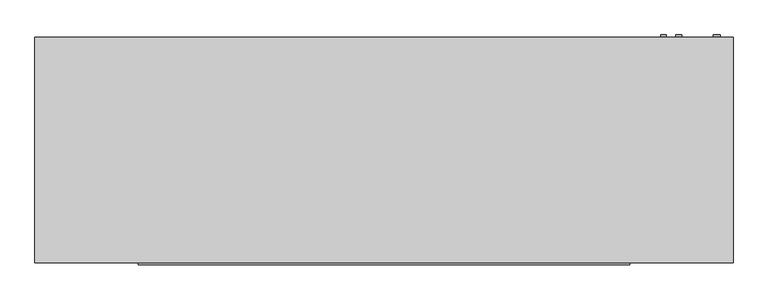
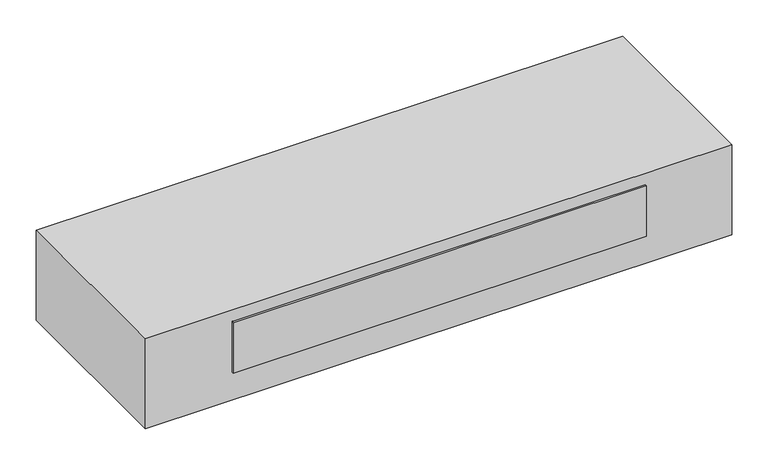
"""IFC4 building model written with IfcOpenShell, lengths in millimetres: proxy geometry, Exposed_Horizontal_Fan_Coil_Unit_-_42CGB_-_CARRIER_-_2-Pipe_Cool-EHeat_FS-BR_RH_2022 : Size 10 - 277v/60Hz/1Ph - 4 Row 8.0kW."""

from ifc_helpers import new_model, si_unit, point, frame, frame_2d, origin, place, context, project, spatial, polyline, circle_curve, trimmed, segment, composite_curve, outline, extrude, source, transform, mapped, element, save


def mechanical_equipment_da27d940(model_context):
    return source(origin(), model_context, "Body", "SweptSolid", [
        extrude(outline(composite_curve([segment(trimmed(circle_curve(frame_2d((-60.325, 904.875)), 7.9375), [point((-60.325, 912.8125))], [point((-60.325, 896.9375))], False, "CARTESIAN"), True, "CONTINUOUS"), segment(trimmed(circle_curve(frame_2d((-60.325, 904.875)), 7.9375), [point((-60.325, 896.9375))], [point((-60.325, 912.8125))], False, "CARTESIAN"), True, "CONTINUOUS")], self_intersect=False)), frame((0.0, 65.0875, 0.0), z_axis=(0.0, 1.0, 0.0), x_axis=(0.0, 0.0, 1.0)), (0.0, 0.0, 1.0), 6.35),
        extrude(outline(composite_curve([segment(trimmed(circle_curve(frame_2d((-95.25, 946.15)), 7.9375), [point((-95.25, 954.0875))], [point((-95.25, 938.2125))], False, "CARTESIAN"), True, "CONTINUOUS"), segment(trimmed(circle_curve(frame_2d((-95.25, 946.15)), 7.9375), [point((-95.25, 938.2125))], [point((-95.25, 954.0875))], False, "CARTESIAN"), True, "CONTINUOUS")], self_intersect=False)), frame((0.0, 65.0875, 0.0), z_axis=(0.0, 1.0, 0.0), x_axis=(0.0, 0.0, 1.0)), (0.0, 0.0, 1.0), 6.35),
        extrude(outline(composite_curve([segment(trimmed(circle_curve(frame_2d((-260.35, 1047.75)), 9.525), [point((-260.35, 1057.275))], [point((-260.35, 1038.225))], False, "CARTESIAN"), True, "CONTINUOUS"), segment(trimmed(circle_curve(frame_2d((-260.35, 1047.75)), 9.525), [point((-260.35, 1038.225))], [point((-260.35, 1057.275))], False, "CARTESIAN"), True, "CONTINUOUS")], self_intersect=False)), frame((0.0, 65.0875, 0.0), z_axis=(0.0, 1.0, 0.0), x_axis=(0.0, 0.0, 1.0)), (0.0, 0.0, 1.0), 6.35),
        extrude(outline(polyline([(-787.4, 65.0875), (1092.2, 65.0875), (1092.2, -541.3375), (-787.4, -541.3375), (-787.4, 65.0875)])), frame((0.0, 0.0, -304.8), z_axis=(0.0, 0.0, 1.0), x_axis=(1.0, 0.0, 0.0)), (0.0, 0.0, 1.0), 304.8),
        extrude(outline(polyline([(814.3875, -547.6875), (-509.5875, -547.6875), (-509.5875, -541.3375), (814.3875, -541.3375), (814.3875, -547.6875)])), frame((0.0, 0.0, -209.55), z_axis=(0.0, 0.0, 1.0), x_axis=(1.0, 0.0, 0.0)), (0.0, 0.0, 1.0), 171.45),
        extrude(outline(polyline([(844.55, -11.1125), (844.55, -265.1125), (-539.75, -265.1125), (-539.75, -11.1125), (844.55, -11.1125)])), frame((0.0, 0.0, -311.15), z_axis=(0.0, 0.0, 1.0), x_axis=(1.0, 0.0, 0.0)), (0.0, 0.0, 1.0), 6.35),
    ])


if __name__ == "__main__":
    model = new_model("IFC4")
    model_context = context("Model", 3, world=origin())
    ifc_project = project(units=[si_unit("LENGTHUNIT", "METRE", prefix="MILLI")], contexts=[model_context])
    site = spatial("IfcSite", under=ifc_project)
    building = spatial("IfcBuilding", under=site)
    placement = place(None, origin())
    mechanical_equipment_shape = mechanical_equipment_da27d940(model_context)
    element("IfcBuildingElementProxy", 1, Name="Exposed_Horizontal_Fan_Coil_Unit_-_42CGB_-_CARRIER_-_2-Pipe_Cool-EHeat_FS-BR_RH_2022 : Size 10 - 277v/60Hz/1Ph - 4 Row 8.0kW", ObjectType="Exposed_Horizontal_Fan_Coil_Unit_-_42CGB_-_CARRIER_-_2-Pipe_Cool-EHeat_FS-BR_RH_2022 : Size 10 - 277v/60Hz/1Ph - 4 Row 8.0kW", at=placement, inside=building, context=model_context, shape_type="MappedRepresentation", body=[
        mapped(mechanical_equipment_shape, transform((0.0, 0.0, 0.0), x_axis=(1.0, 0.0, 0.0), y_axis=(0.0, 1.0, 0.0), z_axis=(0.0, 0.0, 1.0))),
    ])
    save(model, "model.ifc")
